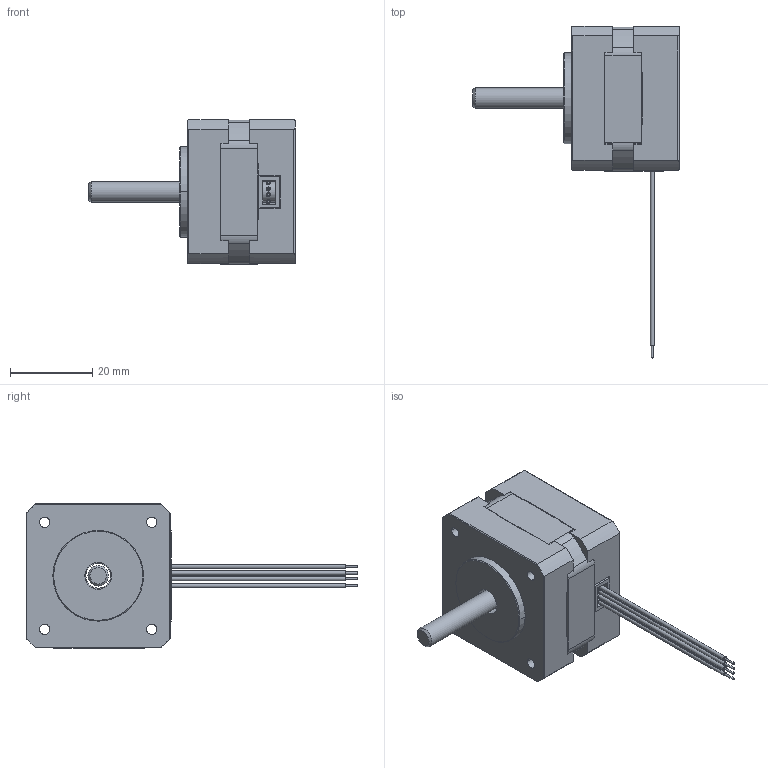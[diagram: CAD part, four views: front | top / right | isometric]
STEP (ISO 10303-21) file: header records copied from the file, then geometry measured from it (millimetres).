
FILE_DESCRIPTION( ('This file contains a STEP AP42 implementation' ,'as created by ZW3D STEP Interface translator.' ,'') ,'2;1' );
FILE_NAME( '35H26H-0804A-XXX.stp' ,'26 114.162830', (''), ('ZWCAD Software Co.'), 'Version 1.0', 'ZW3D to STEP translator', '' );
FILE_SCHEMA(('AUTOMOTIVE_DESIGN { 1 0 10303 214 1 1 1 1 }'));
Length unit declared in the file: millimetre
Products named in the file (1): 0
Bounding box: 50 x 80.51 x 35.09 mm (x, y, z)
Volume: 15284.6 mm3; surface area: 15222.3 mm2
Topology: 6 solids, 6 shells, 458 faces, 1382 edges, 882 vertices
Faces by surface type: plane 266, cylinder 159, bspline 29, cone 4
Full cylindrical faces by diameter (mm): 0.5 x8, 1 x2, 1.2 x8, 3.2 x4, 3.4 x4, 5 x1, 5.8 x4, 6 x1, 6.5 x1, 27.79 x1
Entity records: 16836 total; most frequent: CARTESIAN_POINT 3569, ORIENTED_EDGE 2764, DIRECTION 2685, EDGE_CURVE 1382, AXIS2_PLACEMENT_3D 915, VERTEX_POINT 882, VECTOR 855, LINE 855
